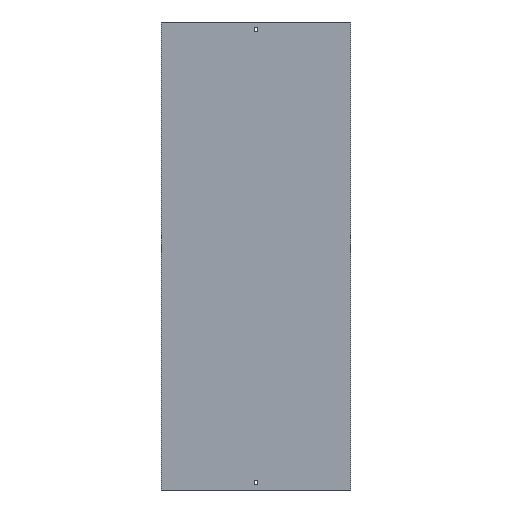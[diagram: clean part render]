
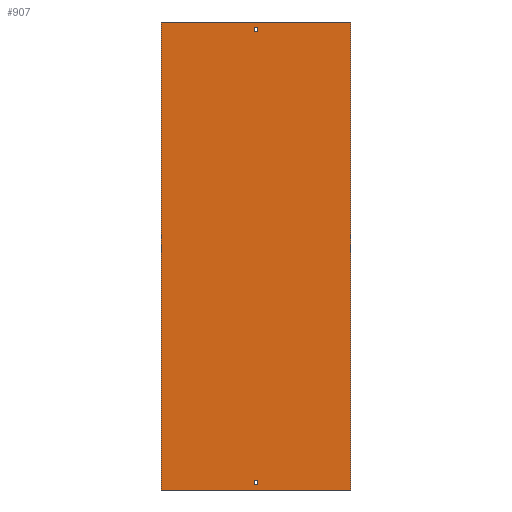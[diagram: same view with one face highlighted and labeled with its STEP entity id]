
A CAD part, front view. The second image highlights one B-rep face of the part: STEP entity #907.
In plain terms, the highlighted planar face has unit normal (0, -1, 0).
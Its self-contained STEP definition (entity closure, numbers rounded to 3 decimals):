
#30 = VERTEX_POINT ( 'NONE', #146 ) ;
#59 = EDGE_CURVE ( 'NONE', #1504, #1647, #799, .T. ) ;
#66 = VECTOR ( 'NONE', #600, 1000. ) ;
#84 = CARTESIAN_POINT ( 'NONE',  ( -3.25, 0., -488. ) ) ;
#133 = LINE ( 'NONE', #1150, #384 ) ;
#146 = CARTESIAN_POINT ( 'NONE',  ( -3.25, 0., 479. ) ) ;
#166 = ORIENTED_EDGE ( 'NONE', *, *, #292, .T. ) ;
#211 = EDGE_CURVE ( 'NONE', #1039, #361, #1358, .T. ) ;
#212 = ORIENTED_EDGE ( 'NONE', *, *, #244, .F. ) ;
#244 = EDGE_CURVE ( 'NONE', #30, #1124, #466, .T. ) ;
#252 = DIRECTION ( 'NONE',  ( 0., 0., -1. ) ) ;
#276 = VECTOR ( 'NONE', #252, 1000. ) ;
#292 = EDGE_CURVE ( 'NONE', #1663, #1504, #1609, .T. ) ;
#323 = DIRECTION ( 'NONE',  ( 0., 1., 0. ) ) ;
#326 = CARTESIAN_POINT ( 'NONE',  ( 202., 0., -500. ) ) ;
#331 = VECTOR ( 'NONE', #798, 1000. ) ;
#350 = VERTEX_POINT ( 'NONE', #1658 ) ;
#356 = ORIENTED_EDGE ( 'NONE', *, *, #1011, .T. ) ;
#361 = VERTEX_POINT ( 'NONE', #483 ) ;
#384 = VECTOR ( 'NONE', #1027, 1000. ) ;
#386 = VERTEX_POINT ( 'NONE', #1113 ) ;
#387 = CARTESIAN_POINT ( 'NONE',  ( 3.25, 0., -488. ) ) ;
#432 = DIRECTION ( 'NONE',  ( 0., 0., 1. ) ) ;
#435 = DIRECTION ( 'NONE',  ( -1., 0., 0. ) ) ;
#447 = ORIENTED_EDGE ( 'NONE', *, *, #485, .F. ) ;
#449 = CARTESIAN_POINT ( 'NONE',  ( 202., 0., 500. ) ) ;
#466 = LINE ( 'NONE', #980, #470 ) ;
#470 = VECTOR ( 'NONE', #1091, 1000. ) ;
#483 = CARTESIAN_POINT ( 'NONE',  ( -3.25, 0., -479. ) ) ;
#485 = EDGE_CURVE ( 'NONE', #386, #30, #554, .T. ) ;
#496 = VECTOR ( 'NONE', #1080, 1000. ) ;
#540 = EDGE_CURVE ( 'NONE', #976, #1398, #1029, .T. ) ;
#541 = EDGE_LOOP ( 'NONE', ( #212, #447, #1558, #902 ) ) ;
#554 = LINE ( 'NONE', #1281, #276 ) ;
#579 = VECTOR ( 'NONE', #1466, 1000. ) ;
#595 = CARTESIAN_POINT ( 'NONE',  ( -3.25, 0., -488. ) ) ;
#600 = DIRECTION ( 'NONE',  ( -1., 0., 0. ) ) ;
#612 = ORIENTED_EDGE ( 'NONE', *, *, #1401, .F. ) ;
#628 = ORIENTED_EDGE ( 'NONE', *, *, #211, .T. ) ;
#650 = FACE_BOUND ( 'NONE', #541, .T. ) ;
#732 = CARTESIAN_POINT ( 'NONE',  ( 3.25, 0., 479. ) ) ;
#737 = DIRECTION ( 'NONE',  ( 0., 0., -1. ) ) ;
#754 = EDGE_CURVE ( 'NONE', #1398, #1039, #1237, .T. ) ;
#788 = CARTESIAN_POINT ( 'NONE',  ( -202., 0., -500. ) ) ;
#798 = DIRECTION ( 'NONE',  ( 1., 0., 0. ) ) ;
#799 = LINE ( 'NONE', #788, #1519 ) ;
#831 = CARTESIAN_POINT ( 'NONE',  ( 202., 0., 500. ) ) ;
#873 = ORIENTED_EDGE ( 'NONE', *, *, #754, .T. ) ;
#891 = CARTESIAN_POINT ( 'NONE',  ( -202., 0., -500. ) ) ;
#895 = EDGE_CURVE ( 'NONE', #1124, #350, #133, .T. ) ;
#897 = VECTOR ( 'NONE', #1342, 1000. ) ;
#902 = ORIENTED_EDGE ( 'NONE', *, *, #895, .F. ) ;
#903 = DIRECTION ( 'NONE',  ( 0., 0., -1. ) ) ;
#907 = ADVANCED_FACE ( 'NONE', ( #1672, #650, #1539 ), #1158, .F. ) ;
#947 = CARTESIAN_POINT ( 'NONE',  ( 3.25, 0., -488. ) ) ;
#961 = VERTEX_POINT ( 'NONE', #831 ) ;
#965 = CARTESIAN_POINT ( 'NONE',  ( -202., 0., 500. ) ) ;
#976 = VERTEX_POINT ( 'NONE', #1474 ) ;
#980 = CARTESIAN_POINT ( 'NONE',  ( -3.25, 0., 479. ) ) ;
#1011 = EDGE_CURVE ( 'NONE', #361, #976, #1593, .T. ) ;
#1020 = EDGE_LOOP ( 'NONE', ( #628, #356, #1053, #873 ) ) ;
#1027 = DIRECTION ( 'NONE',  ( 0., 0., 1. ) ) ;
#1029 = LINE ( 'NONE', #387, #1572 ) ;
#1039 = VERTEX_POINT ( 'NONE', #1212 ) ;
#1051 = EDGE_LOOP ( 'NONE', ( #1372, #1106, #612, #166 ) ) ;
#1053 = ORIENTED_EDGE ( 'NONE', *, *, #540, .T. ) ;
#1080 = DIRECTION ( 'NONE',  ( -1., 0., 0. ) ) ;
#1083 = CARTESIAN_POINT ( 'NONE',  ( -3.25, 0., -479. ) ) ;
#1091 = DIRECTION ( 'NONE',  ( 1., 0., 0. ) ) ;
#1095 = CARTESIAN_POINT ( 'NONE',  ( -202., 0., 500. ) ) ;
#1106 = ORIENTED_EDGE ( 'NONE', *, *, #1642, .F. ) ;
#1113 = CARTESIAN_POINT ( 'NONE',  ( -3.25, 0., 488. ) ) ;
#1124 = VERTEX_POINT ( 'NONE', #732 ) ;
#1138 = VECTOR ( 'NONE', #432, 1000. ) ;
#1150 = CARTESIAN_POINT ( 'NONE',  ( 3.25, 0., 488. ) ) ;
#1158 = PLANE ( 'NONE',  #1329 ) ;
#1191 = CARTESIAN_POINT ( 'NONE',  ( -202., 0., 500. ) ) ;
#1210 = CARTESIAN_POINT ( 'NONE',  ( -3.25, 0., 488. ) ) ;
#1212 = CARTESIAN_POINT ( 'NONE',  ( -3.25, 0., -488. ) ) ;
#1237 = LINE ( 'NONE', #84, #66 ) ;
#1281 = CARTESIAN_POINT ( 'NONE',  ( -3.25, 0., 488. ) ) ;
#1329 = AXIS2_PLACEMENT_3D ( 'NONE', #1095, #323, #435 ) ;
#1342 = DIRECTION ( 'NONE',  ( 0., 0., -1. ) ) ;
#1358 = LINE ( 'NONE', #595, #1138 ) ;
#1372 = ORIENTED_EDGE ( 'NONE', *, *, #59, .T. ) ;
#1398 = VERTEX_POINT ( 'NONE', #947 ) ;
#1401 = EDGE_CURVE ( 'NONE', #1663, #961, #1554, .T. ) ;
#1412 = VECTOR ( 'NONE', #737, 1000. ) ;
#1466 = DIRECTION ( 'NONE',  ( 1., 0., 0. ) ) ;
#1474 = CARTESIAN_POINT ( 'NONE',  ( 3.25, 0., -479. ) ) ;
#1485 = LINE ( 'NONE', #449, #897 ) ;
#1504 = VERTEX_POINT ( 'NONE', #891 ) ;
#1519 = VECTOR ( 'NONE', #1562, 1000. ) ;
#1539 = FACE_BOUND ( 'NONE', #1020, .T. ) ;
#1554 = LINE ( 'NONE', #1677, #331 ) ;
#1557 = EDGE_CURVE ( 'NONE', #350, #386, #1561, .T. ) ;
#1558 = ORIENTED_EDGE ( 'NONE', *, *, #1557, .F. ) ;
#1561 = LINE ( 'NONE', #1210, #496 ) ;
#1562 = DIRECTION ( 'NONE',  ( 1., 0., 0. ) ) ;
#1572 = VECTOR ( 'NONE', #903, 1000. ) ;
#1593 = LINE ( 'NONE', #1083, #579 ) ;
#1609 = LINE ( 'NONE', #965, #1412 ) ;
#1642 = EDGE_CURVE ( 'NONE', #961, #1647, #1485, .T. ) ;
#1647 = VERTEX_POINT ( 'NONE', #326 ) ;
#1658 = CARTESIAN_POINT ( 'NONE',  ( 3.25, 0., 488. ) ) ;
#1663 = VERTEX_POINT ( 'NONE', #1191 ) ;
#1672 = FACE_OUTER_BOUND ( 'NONE', #1051, .T. ) ;
#1677 = CARTESIAN_POINT ( 'NONE',  ( -202., 0., 500. ) ) ;
